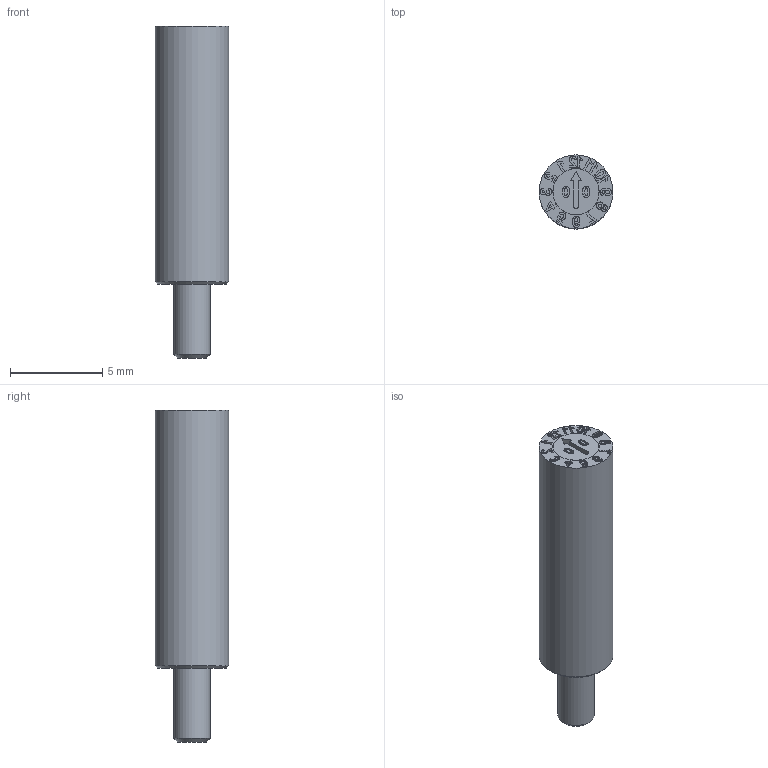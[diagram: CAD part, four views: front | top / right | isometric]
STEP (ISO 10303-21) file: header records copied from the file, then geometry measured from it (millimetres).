
FILE_DESCRIPTION(/* description */ (''),/* implementation_level */ '2;1');
FILE_NAME(/* name */ 'IMC-D1200-MY4.step',/* time_stamp */ '2025-04-16T14:07:18+02:00',/* author */ (''),/* organization */ (''),/* preprocessor_version */ 'ST-DEVELOPER v20.1',/* originating_system */ 'Autodesk Translation Framework v14.4.0.0',/* authorisation */ '');
FILE_SCHEMA (('AUTOMOTIVE_DESIGN { 1 0 10303 214 3 1 1 }'));
Length unit declared in the file: millimetre
Products named in the file (1): D1200-MY4
Bounding box: 4 x 4 x 18 mm (x, y, z)
Volume: 187.7 mm3; surface area: 249.6 mm2
Topology: 1 solids, 1 shells, 339 faces, 922 edges, 614 vertices
Faces by surface type: bspline 231, plane 101, cylinder 5, cone 2
Full cylindrical faces by diameter (mm): 2 x1, 2.5 x1, 2.51 x1, 4 x1
Entity records: 12815 total; most frequent: CARTESIAN_POINT 5803, ORIENTED_EDGE 1844, EDGE_CURVE 922, DIRECTION 690, VERTEX_POINT 614, B_SPLINE_CURVE_WITH_KNOTS 462, LINE 448, VECTOR 448
